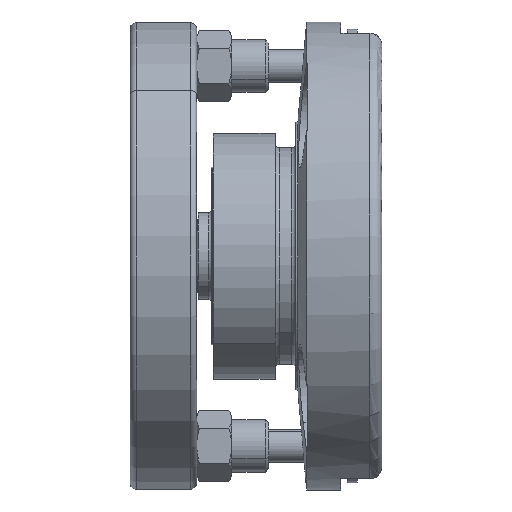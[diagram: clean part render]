
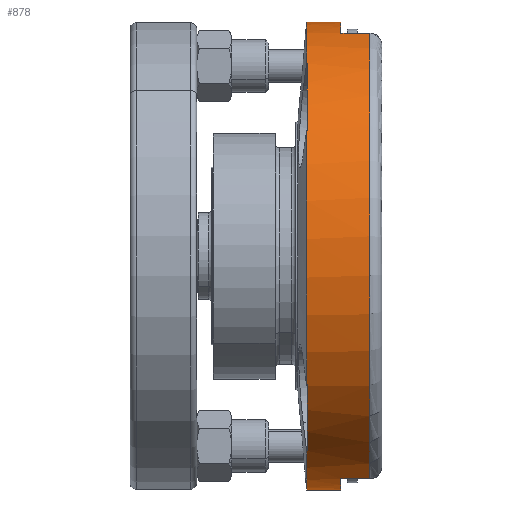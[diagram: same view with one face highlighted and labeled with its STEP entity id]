
A CAD part, left-side view. The second image highlights one B-rep face of the part: STEP entity #878.
In plain terms, the highlighted cylindrical face has radius 114 mm (diameter 228 mm), a partial arc.
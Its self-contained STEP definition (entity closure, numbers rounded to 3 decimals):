
#70 = LINE ( 'NONE', #6597, #2103 ) ;
#292 = CARTESIAN_POINT ( 'NONE',  ( 0., 20., 114. ) ) ;
#466 = ORIENTED_EDGE ( 'NONE', *, *, #8787, .F. ) ;
#530 = EDGE_CURVE ( 'NONE', #8275, #4370, #3968, .T. ) ;
#542 = CARTESIAN_POINT ( 'NONE',  ( -64.835, 36.5, 93.768 ) ) ;
#646 = ORIENTED_EDGE ( 'NONE', *, *, #5555, .T. ) ;
#648 = VECTOR ( 'NONE', #7319, 1000. ) ;
#668 = VERTEX_POINT ( 'NONE', #1278 ) ;
#687 = DIRECTION ( 'NONE',  ( 0., -1., 0. ) ) ;
#747 = EDGE_CURVE ( 'NONE', #3100, #8697, #6934, .T. ) ;
#773 = AXIS2_PLACEMENT_3D ( 'NONE', #9323, #5908, #3274 ) ;
#878 = ADVANCED_FACE ( 'NONE', ( #8406 ), #8135, .T. ) ;
#940 = DIRECTION ( 'NONE',  ( 0., -1., 0. ) ) ;
#968 = ORIENTED_EDGE ( 'NONE', *, *, #747, .T. ) ;
#993 = ORIENTED_EDGE ( 'NONE', *, *, #3455, .F. ) ;
#1036 = VERTEX_POINT ( 'NONE', #5148 ) ;
#1092 = LINE ( 'NONE', #5171, #10297 ) ;
#1107 = VERTEX_POINT ( 'NONE', #1256 ) ;
#1164 = VERTEX_POINT ( 'NONE', #3951 ) ;
#1256 = CARTESIAN_POINT ( 'NONE',  ( -96.172, 36.5, 61.212 ) ) ;
#1278 = CARTESIAN_POINT ( 'NONE',  ( 0., 36.735, -114. ) ) ;
#1307 = VERTEX_POINT ( 'NONE', #4767 ) ;
#1324 = CIRCLE ( 'NONE', #2627, 114. ) ;
#1403 = CARTESIAN_POINT ( 'NONE',  ( 0., 20., 0. ) ) ;
#1589 = AXIS2_PLACEMENT_3D ( 'NONE', #1929, #7971, #2785 ) ;
#1752 = LINE ( 'NONE', #3185, #6088 ) ;
#1757 = AXIS2_PLACEMENT_3D ( 'NONE', #6130, #940, #6985 ) ;
#1876 = VERTEX_POINT ( 'NONE', #6432 ) ;
#1929 = CARTESIAN_POINT ( 'NONE',  ( 0., 36.5, 0. ) ) ;
#1985 = DIRECTION ( 'NONE',  ( 0., -1., 0. ) ) ;
#2020 = VECTOR ( 'NONE', #3067, 1000. ) ;
#2026 = CIRCLE ( 'NONE', #1589, 114. ) ;
#2103 = VECTOR ( 'NONE', #5930, 1000. ) ;
#2129 = CARTESIAN_POINT ( 'NONE',  ( -35., 20., -108.494 ) ) ;
#2257 = DIRECTION ( 'NONE',  ( 0., 0., 1. ) ) ;
#2287 = LINE ( 'NONE', #5712, #2020 ) ;
#2413 = CIRCLE ( 'NONE', #2505, 114. ) ;
#2505 = AXIS2_PLACEMENT_3D ( 'NONE', #1403, #7454, #2257 ) ;
#2523 = EDGE_CURVE ( 'NONE', #1164, #1876, #1092, .T. ) ;
#2627 = AXIS2_PLACEMENT_3D ( 'NONE', #3283, #9335, #4171 ) ;
#2652 = VERTEX_POINT ( 'NONE', #8727 ) ;
#2676 = ORIENTED_EDGE ( 'NONE', *, *, #8431, .F. ) ;
#2677 = EDGE_CURVE ( 'NONE', #8275, #1107, #2026, .T. ) ;
#2712 = AXIS2_PLACEMENT_3D ( 'NONE', #3128, #9180, #4009 ) ;
#2747 = ORIENTED_EDGE ( 'NONE', *, *, #2936, .F. ) ;
#2762 = EDGE_CURVE ( 'NONE', #1307, #6767, #8377, .T. ) ;
#2785 = DIRECTION ( 'NONE',  ( 0., 0., 1. ) ) ;
#2936 = EDGE_CURVE ( 'NONE', #3826, #5276, #2413, .T. ) ;
#3067 = DIRECTION ( 'NONE',  ( 0., -1., 0. ) ) ;
#3100 = VERTEX_POINT ( 'NONE', #3605 ) ;
#3128 = CARTESIAN_POINT ( 'NONE',  ( 0., 20., 0. ) ) ;
#3185 = CARTESIAN_POINT ( 'NONE',  ( -63.115, 0., -94.934 ) ) ;
#3204 = LINE ( 'NONE', #5612, #648 ) ;
#3274 = DIRECTION ( 'NONE',  ( 0., 0., -1. ) ) ;
#3283 = CARTESIAN_POINT ( 'NONE',  ( 0., 36.735, 0. ) ) ;
#3406 = CARTESIAN_POINT ( 'NONE',  ( 0., 36.5, 0. ) ) ;
#3455 = EDGE_CURVE ( 'NONE', #7365, #9326, #1752, .T. ) ;
#3605 = CARTESIAN_POINT ( 'NONE',  ( -35., 20., 108.494 ) ) ;
#3616 = VECTOR ( 'NONE', #6775, 1000. ) ;
#3739 = CARTESIAN_POINT ( 'NONE',  ( 0., 6., 0. ) ) ;
#3741 = ORIENTED_EDGE ( 'NONE', *, *, #2677, .T. ) ;
#3826 = VERTEX_POINT ( 'NONE', #2129 ) ;
#3922 = ORIENTED_EDGE ( 'NONE', *, *, #7970, .F. ) ;
#3951 = CARTESIAN_POINT ( 'NONE',  ( -94.934, 36.5, -63.115 ) ) ;
#3968 = LINE ( 'NONE', #6318, #8545 ) ;
#4008 = ORIENTED_EDGE ( 'NONE', *, *, #4856, .F. ) ;
#4009 = DIRECTION ( 'NONE',  ( 0., 0., -1. ) ) ;
#4041 = DIRECTION ( 'NONE',  ( 0., -1., 0. ) ) ;
#4056 = LINE ( 'NONE', #10179, #8355 ) ;
#4095 = CARTESIAN_POINT ( 'NONE',  ( -63.115, 36.5, -94.934 ) ) ;
#4171 = DIRECTION ( 'NONE',  ( 0., 0., -1. ) ) ;
#4288 = DIRECTION ( 'NONE',  ( 0., 0., -1. ) ) ;
#4296 = EDGE_CURVE ( 'NONE', #2652, #1107, #2287, .T. ) ;
#4370 = VERTEX_POINT ( 'NONE', #7578 ) ;
#4635 = DIRECTION ( 'NONE',  ( 0., 0., -1. ) ) ;
#4767 = CARTESIAN_POINT ( 'NONE',  ( -35., 6., -108.494 ) ) ;
#4804 = ORIENTED_EDGE ( 'NONE', *, *, #7144, .T. ) ;
#4856 = EDGE_CURVE ( 'NONE', #1036, #8697, #4056, .T. ) ;
#5148 = CARTESIAN_POINT ( 'NONE',  ( 0., 36.735, 114. ) ) ;
#5171 = CARTESIAN_POINT ( 'NONE',  ( -94.934, 0., -63.115 ) ) ;
#5276 = VERTEX_POINT ( 'NONE', #5532 ) ;
#5532 = CARTESIAN_POINT ( 'NONE',  ( 0., 20., -114. ) ) ;
#5533 = AXIS2_PLACEMENT_3D ( 'NONE', #7165, #1985, #8032 ) ;
#5555 = EDGE_CURVE ( 'NONE', #7365, #668, #6337, .T. ) ;
#5612 = CARTESIAN_POINT ( 'NONE',  ( -35., 0., 108.494 ) ) ;
#5712 = CARTESIAN_POINT ( 'NONE',  ( -96.172, 0., 61.212 ) ) ;
#5908 = DIRECTION ( 'NONE',  ( 0., -1., 0. ) ) ;
#5930 = DIRECTION ( 'NONE',  ( 0., -1., 0. ) ) ;
#6088 = VECTOR ( 'NONE', #4041, 1000. ) ;
#6117 = ORIENTED_EDGE ( 'NONE', *, *, #530, .F. ) ;
#6130 = CARTESIAN_POINT ( 'NONE',  ( 0., 36.735, 0. ) ) ;
#6318 = CARTESIAN_POINT ( 'NONE',  ( -64.835, 0., 93.768 ) ) ;
#6337 = CIRCLE ( 'NONE', #1757, 114. ) ;
#6432 = CARTESIAN_POINT ( 'NONE',  ( -94.934, 36.735, -63.115 ) ) ;
#6597 = CARTESIAN_POINT ( 'NONE',  ( 0., 0., -114. ) ) ;
#6767 = VERTEX_POINT ( 'NONE', #10346 ) ;
#6775 = DIRECTION ( 'NONE',  ( 0., 1., 0. ) ) ;
#6806 = AXIS2_PLACEMENT_3D ( 'NONE', #3739, #9794, #4635 ) ;
#6934 = CIRCLE ( 'NONE', #2712, 114. ) ;
#6985 = DIRECTION ( 'NONE',  ( 0., 0., -1. ) ) ;
#7040 = CARTESIAN_POINT ( 'NONE',  ( -63.115, 36.735, -94.934 ) ) ;
#7144 = EDGE_CURVE ( 'NONE', #668, #5276, #70, .T. ) ;
#7165 = CARTESIAN_POINT ( 'NONE',  ( 0., 36.735, 0. ) ) ;
#7319 = DIRECTION ( 'NONE',  ( 0., -1., 0. ) ) ;
#7365 = VERTEX_POINT ( 'NONE', #7040 ) ;
#7454 = DIRECTION ( 'NONE',  ( 0., -1., 0. ) ) ;
#7578 = CARTESIAN_POINT ( 'NONE',  ( -64.835, 36.735, 93.768 ) ) ;
#7663 = ORIENTED_EDGE ( 'NONE', *, *, #2523, .F. ) ;
#7897 = ORIENTED_EDGE ( 'NONE', *, *, #8415, .T. ) ;
#7970 = EDGE_CURVE ( 'NONE', #9326, #1164, #9666, .T. ) ;
#7971 = DIRECTION ( 'NONE',  ( 0., -1., 0. ) ) ;
#8032 = DIRECTION ( 'NONE',  ( 0., 0., -1. ) ) ;
#8135 = CYLINDRICAL_SURFACE ( 'NONE', #773, 114. ) ;
#8184 = CIRCLE ( 'NONE', #5533, 114. ) ;
#8219 = LINE ( 'NONE', #11109, #3616 ) ;
#8275 = VERTEX_POINT ( 'NONE', #542 ) ;
#8355 = VECTOR ( 'NONE', #687, 1000. ) ;
#8377 = CIRCLE ( 'NONE', #6806, 114. ) ;
#8406 = FACE_OUTER_BOUND ( 'NONE', #8884, .T. ) ;
#8415 = EDGE_CURVE ( 'NONE', #1036, #4370, #1324, .T. ) ;
#8431 = EDGE_CURVE ( 'NONE', #1307, #3826, #8219, .T. ) ;
#8545 = VECTOR ( 'NONE', #8914, 1000. ) ;
#8686 = ORIENTED_EDGE ( 'NONE', *, *, #10402, .T. ) ;
#8697 = VERTEX_POINT ( 'NONE', #292 ) ;
#8712 = ORIENTED_EDGE ( 'NONE', *, *, #4296, .F. ) ;
#8727 = CARTESIAN_POINT ( 'NONE',  ( -96.172, 36.735, 61.212 ) ) ;
#8787 = EDGE_CURVE ( 'NONE', #3100, #6767, #3204, .T. ) ;
#8884 = EDGE_LOOP ( 'NONE', ( #4008, #7897, #6117, #3741, #8712, #8686, #7663, #3922, #993, #646, #4804, #2747, #2676, #10101, #466, #968 ) ) ;
#8914 = DIRECTION ( 'NONE',  ( 0., 1., 0. ) ) ;
#9180 = DIRECTION ( 'NONE',  ( 0., 1., 0. ) ) ;
#9323 = CARTESIAN_POINT ( 'NONE',  ( 0., 0., 0. ) ) ;
#9326 = VERTEX_POINT ( 'NONE', #4095 ) ;
#9335 = DIRECTION ( 'NONE',  ( 0., -1., 0. ) ) ;
#9453 = DIRECTION ( 'NONE',  ( 0., 1., 0. ) ) ;
#9666 = CIRCLE ( 'NONE', #10044, 114. ) ;
#9794 = DIRECTION ( 'NONE',  ( 0., 1., 0. ) ) ;
#10044 = AXIS2_PLACEMENT_3D ( 'NONE', #3406, #9453, #4288 ) ;
#10101 = ORIENTED_EDGE ( 'NONE', *, *, #2762, .T. ) ;
#10179 = CARTESIAN_POINT ( 'NONE',  ( 0., 0., 114. ) ) ;
#10297 = VECTOR ( 'NONE', #10334, 1000. ) ;
#10334 = DIRECTION ( 'NONE',  ( 0., 1., 0. ) ) ;
#10346 = CARTESIAN_POINT ( 'NONE',  ( -35., 6., 108.494 ) ) ;
#10402 = EDGE_CURVE ( 'NONE', #2652, #1876, #8184, .T. ) ;
#11109 = CARTESIAN_POINT ( 'NONE',  ( -35., 0., -108.494 ) ) ;
